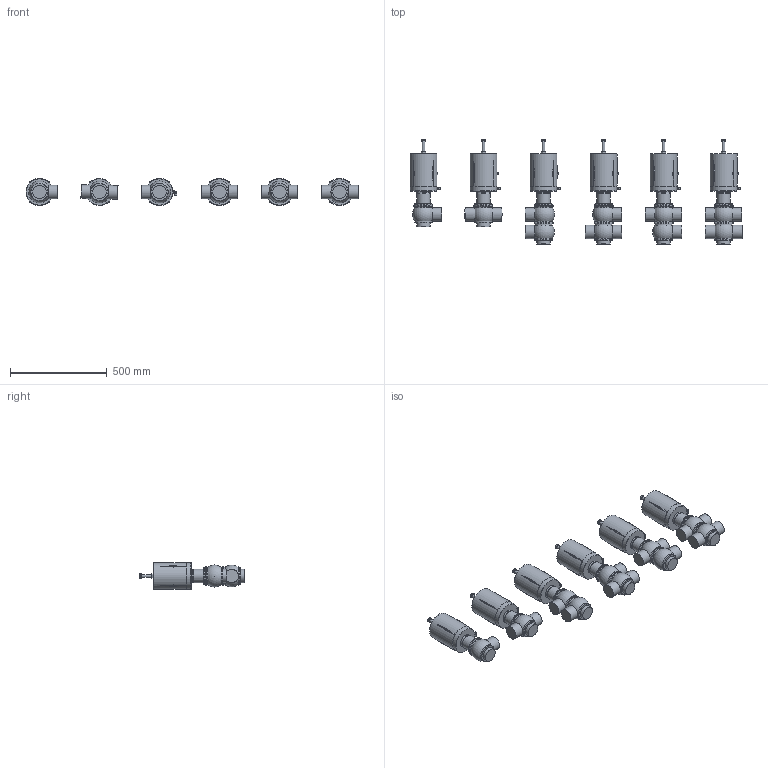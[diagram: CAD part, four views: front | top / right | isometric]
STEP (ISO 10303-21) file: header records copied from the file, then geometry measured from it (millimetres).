
FILE_DESCRIPTION((''),'2;1');
FILE_NAME('\\BV-SRV1\Ufficio tecnico\cad3d\PNEUMATICA\Ing1-1\pne bbzp e derivate\BBZS5\BBZS5-DN065-CIL134-SAL.iam.step','2009-10-19T10:18:05',(''),(''),'Autodesk Inventor 2010','Autodesk Inventor 2010','');
FILE_SCHEMA(('AUTOMOTIVE_DESIGN { 1 0 10303 214 1 1 1 1 }'));
Length unit declared in the file: millimetre
Products named in the file (7): BBZS5-DN065-CIL134-SAL; Assemblaggio-DN065; COR-INF-L-SAL-DN65; COR-INF-T-SAL-DN65; COR-SUP-L-SAL-DN65; COR-SUP-T-SAL-DN65; cil 134 tarabile
Assembly tree (22 placements, depth 2):
  BBZS5-DN065-CIL134-SAL
    Assemblaggio-DN065  x6
    COR-INF-L-SAL-DN65  x3
    COR-INF-T-SAL-DN65  x3
    COR-SUP-L-SAL-DN65  x2
    COR-SUP-T-SAL-DN65  x2
    cil 134 tarabile  x6
Bounding box: 1714.48 x 537.2 x 139.17 mm (x, y, z)
Volume: 30154720.1 mm3; surface area: 1568423 mm2
Topology: 22 solids, 28 shells, 1247 faces, 2972 edges, 1782 vertices
Faces by surface type: plane 473, cylinder 307, cone 266, sphere 87, bspline 66, torus 48
Full cylindrical faces by diameter (mm): 4.9 x6, 6 x12, 7 x6, 8.3 x6, 8.566 x18, 10 x6, 11 x6, 11.5 x6, 14 x6, 19.37 x6, 69 x6, 70 x21, 71 x6, 90 x26, 98 x20, 138 x6, 139.5 x6
Entity records: 7170 total; most frequent: CARTESIAN_POINT 1868, DIRECTION 1060, ORIENTED_EDGE 908, EDGE_CURVE 454, AXIS2_PLACEMENT_3D 452, EDGE_LOOP 327, VERTEX_POINT 311, FACE_OUTER_BOUND 238
